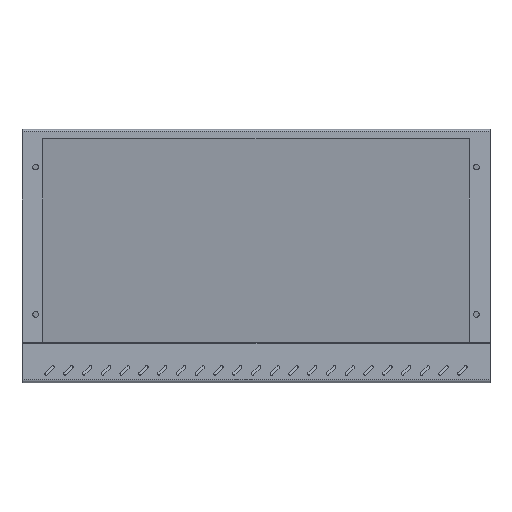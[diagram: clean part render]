
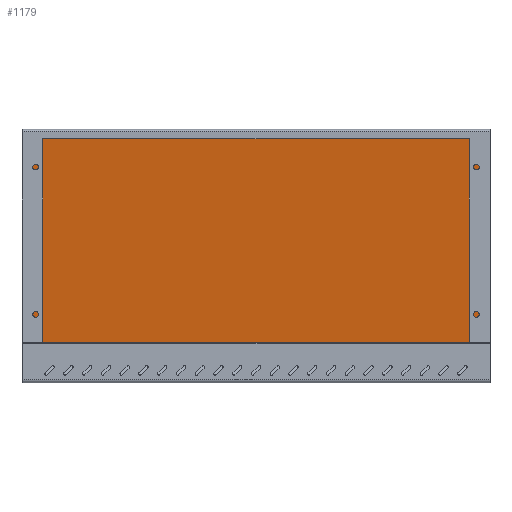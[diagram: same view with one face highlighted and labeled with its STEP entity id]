
A CAD part, front view. The second image highlights one B-rep face of the part: STEP entity #1179.
In plain terms, the highlighted planar face has unit normal (0, -0.99, -0.143).
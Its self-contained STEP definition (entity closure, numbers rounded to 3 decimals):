
#136 = VECTOR ( 'NONE', #1630, 1000. ) ;
#171 = VECTOR ( 'NONE', #830, 1000. ) ;
#324 = DIRECTION ( 'NONE',  ( -1., 0., 0. ) ) ;
#360 = FACE_OUTER_BOUND ( 'NONE', #3656, .T. ) ;
#464 = CARTESIAN_POINT ( 'NONE',  ( -248.3, 51.95, -259.945 ) ) ;
#646 = PLANE ( 'NONE',  #3751 ) ;
#800 = EDGE_CURVE ( 'NONE', #1392, #1568, #824, .T. ) ;
#824 = LINE ( 'NONE', #464, #2446 ) ;
#830 = DIRECTION ( 'NONE',  ( 0., -0.143, 0.99 ) ) ;
#1002 = ORIENTED_EDGE ( 'NONE', *, *, #4260, .T. ) ;
#1032 = VERTEX_POINT ( 'NONE', #3547 ) ;
#1034 = DIRECTION ( 'NONE',  ( 0., -0.99, -0.143 ) ) ;
#1179 = ADVANCED_FACE ( 'NONE', ( #360 ), #646, .T. ) ;
#1392 = VERTEX_POINT ( 'NONE', #1886 ) ;
#1426 = LINE ( 'NONE', #4310, #171 ) ;
#1568 = VERTEX_POINT ( 'NONE', #3850 ) ;
#1630 = DIRECTION ( 'NONE',  ( -1., 0., 0. ) ) ;
#1675 = CARTESIAN_POINT ( 'NONE',  ( 249.5, 47.384, -228.258 ) ) ;
#1713 = DIRECTION ( 'NONE',  ( 0., 0.143, -0.99 ) ) ;
#1737 = CARTESIAN_POINT ( 'NONE',  ( 249.5, 14.883, -2.743 ) ) ;
#1886 = CARTESIAN_POINT ( 'NONE',  ( -248.3, 47.384, -228.258 ) ) ;
#2189 = ORIENTED_EDGE ( 'NONE', *, *, #4205, .T. ) ;
#2204 = ORIENTED_EDGE ( 'NONE', *, *, #800, .F. ) ;
#2446 = VECTOR ( 'NONE', #3220, 1000. ) ;
#2984 = VECTOR ( 'NONE', #324, 1000. ) ;
#3146 = CARTESIAN_POINT ( 'NONE',  ( 248.3, 14.883, -2.743 ) ) ;
#3220 = DIRECTION ( 'NONE',  ( 0., -0.143, 0.99 ) ) ;
#3317 = VERTEX_POINT ( 'NONE', #3146 ) ;
#3392 = CARTESIAN_POINT ( 'NONE',  ( 249.5, 14.883, -2.743 ) ) ;
#3396 = ORIENTED_EDGE ( 'NONE', *, *, #4308, .F. ) ;
#3547 = CARTESIAN_POINT ( 'NONE',  ( 248.3, 47.384, -228.258 ) ) ;
#3656 = EDGE_LOOP ( 'NONE', ( #2204, #3396, #2189, #1002 ) ) ;
#3691 = LINE ( 'NONE', #1675, #136 ) ;
#3751 = AXIS2_PLACEMENT_3D ( 'NONE', #1737, #1034, #1713 ) ;
#3762 = LINE ( 'NONE', #3392, #2984 ) ;
#3850 = CARTESIAN_POINT ( 'NONE',  ( -248.3, 14.883, -2.743 ) ) ;
#4205 = EDGE_CURVE ( 'NONE', #1032, #3317, #1426, .T. ) ;
#4260 = EDGE_CURVE ( 'NONE', #3317, #1568, #3762, .T. ) ;
#4308 = EDGE_CURVE ( 'NONE', #1032, #1392, #3691, .T. ) ;
#4310 = CARTESIAN_POINT ( 'NONE',  ( 248.3, 51.95, -259.945 ) ) ;
